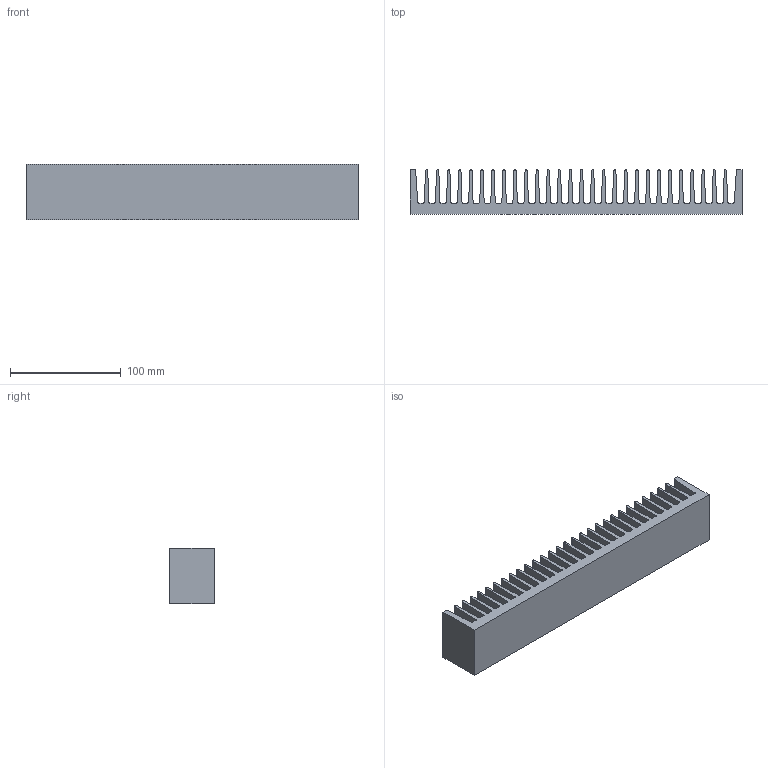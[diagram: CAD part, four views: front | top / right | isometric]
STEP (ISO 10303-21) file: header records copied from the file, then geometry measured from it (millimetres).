
FILE_DESCRIPTION (( 'STEP AP203' ), '1' );
FILE_NAME ('PR 171-50.step', '2002-10-21T08:03:33', ( 'Wolfgang Müller' ), ( 'DPS' ), 'SwSTEP 2.0', 'SolidWorks 2002264', '' );
FILE_SCHEMA (( 'CONFIG_CONTROL_DESIGN' ));
Length unit declared in the file: millimetre
Products named in the file (1): PR 171-50
Bounding box: 300 x 40 x 50 mm (x, y, z)
Volume: 293961.7 mm3; surface area: 127477.7 mm2
Topology: 1 solids, 1 shells, 182 faces, 540 edges, 360 vertices
Faces by surface type: plane 94, cylinder 88
Entity records: 6217 total; most frequent: CARTESIAN_POINT 1083, DIRECTION 1082, ORIENTED_EDGE 1080, EDGE_CURVE 540, VECTOR 364, LINE 364, VERTEX_POINT 360, AXIS2_PLACEMENT_3D 359
